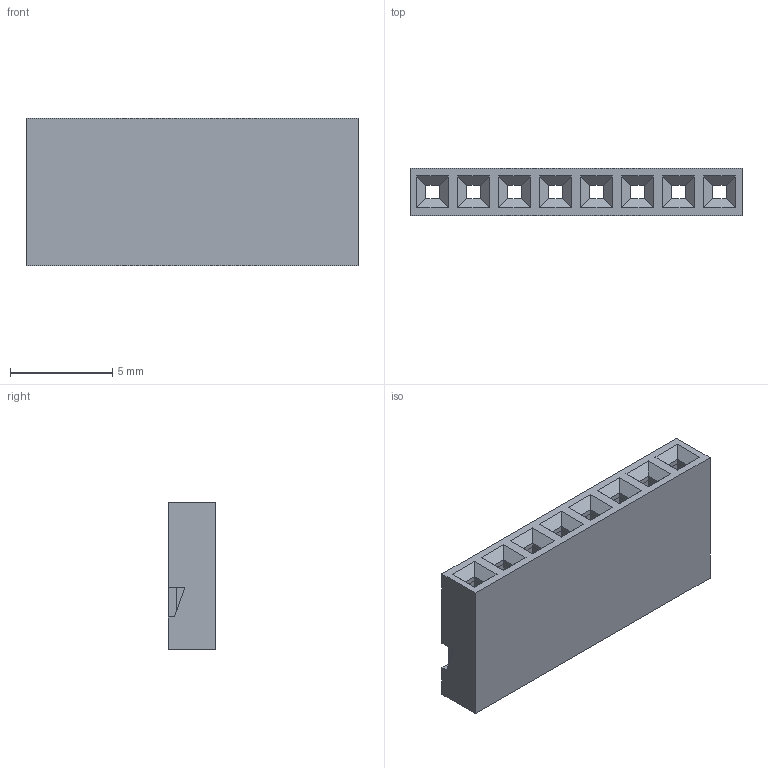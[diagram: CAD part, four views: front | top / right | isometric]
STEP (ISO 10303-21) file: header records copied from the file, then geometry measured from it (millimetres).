
FILE_DESCRIPTION(('CATIA V5 STEP Exchange'),'2;1');
FILE_NAME('F:\黄富鸿\条形连接器\2.00系列\19、20--TJC8（只保留胶壳）\2.0\NY\HC-TJC8-8Y-05 (2.00 单排 孔座-HCTL).stp','2026-02-02T05:58:31+00:00',('none'),('none'),'CATIA Version 5 Release 20 GA (IN-10)','CATIA V5 STEP AP203','none');
FILE_SCHEMA(('CONFIG_CONTROL_DESIGN'));
Length unit declared in the file: millimetre
Products named in the file (1): Part1
Bounding box: 16.2 x 2.3 x 7.2 mm (x, y, z)
Volume: 138.9 mm3; surface area: 665.6 mm2
Topology: 1 solids, 1 shells, 210 faces, 574 edges, 372 vertices
Faces by surface type: plane 202, cylinder 8
Entity records: 6048 total; most frequent: ORIENTED_EDGE 1148, CARTESIAN_POINT 1053, DIRECTION 786, EDGE_CURVE 574, VECTOR 558, LINE 558, VERTEX_POINT 372, EDGE_LOOP 248
